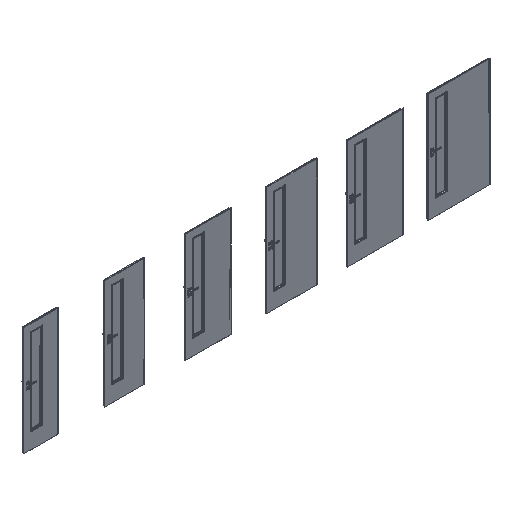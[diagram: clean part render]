
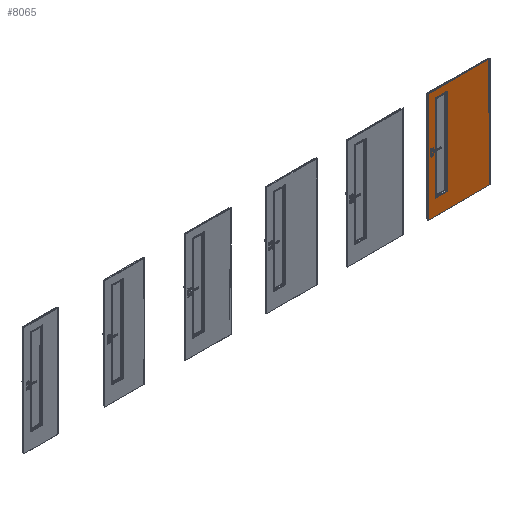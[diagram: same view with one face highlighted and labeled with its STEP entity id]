
A CAD part, isometric view. The second image highlights one B-rep face of the part: STEP entity #8065.
In plain terms, the highlighted planar face has unit normal (0, -1, 0).
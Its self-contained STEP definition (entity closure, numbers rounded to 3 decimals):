
#6673=CIRCLE('',#73642,7.);
#6674=CIRCLE('',#73643,7.);
#6675=CIRCLE('',#73644,7.);
#6676=CIRCLE('',#73645,7.);
#7023=FACE_BOUND('',#18516,.T.);
#7024=FACE_BOUND('',#18517,.T.);
#8065=ADVANCED_FACE('',(#7023,#7024),#11505,.F.);
#11505=PLANE('',#73646);
#18516=EDGE_LOOP('',(#26097,#26098,#26099,#26100,#26101,#26102,#26103,#26104));
#18517=EDGE_LOOP('',(#26105,#26106,#26107,#26108));
#26097=ORIENTED_EDGE('',*,*,#50567,.T.);
#26098=ORIENTED_EDGE('',*,*,#50568,.T.);
#26099=ORIENTED_EDGE('',*,*,#50569,.T.);
#26100=ORIENTED_EDGE('',*,*,#50570,.T.);
#26101=ORIENTED_EDGE('',*,*,#50571,.T.);
#26102=ORIENTED_EDGE('',*,*,#50572,.T.);
#26103=ORIENTED_EDGE('',*,*,#50573,.T.);
#26104=ORIENTED_EDGE('',*,*,#50574,.T.);
#26105=ORIENTED_EDGE('',*,*,#50575,.T.);
#26106=ORIENTED_EDGE('',*,*,#50576,.T.);
#26107=ORIENTED_EDGE('',*,*,#50577,.F.);
#26108=ORIENTED_EDGE('',*,*,#50565,.F.);
#43089=VERTEX_POINT('',#102606);
#43090=VERTEX_POINT('',#102608);
#43091=VERTEX_POINT('',#102612);
#43092=VERTEX_POINT('',#102613);
#43093=VERTEX_POINT('',#102615);
#43094=VERTEX_POINT('',#102617);
#43095=VERTEX_POINT('',#102619);
#43096=VERTEX_POINT('',#102621);
#43097=VERTEX_POINT('',#102623);
#43098=VERTEX_POINT('',#102625);
#43099=VERTEX_POINT('',#102628);
#43100=VERTEX_POINT('',#102630);
#50565=EDGE_CURVE('',#43089,#43090,#59629,.T.);
#50567=EDGE_CURVE('',#43091,#43092,#6673,.T.);
#50568=EDGE_CURVE('',#43092,#43093,#59631,.T.);
#50569=EDGE_CURVE('',#43093,#43094,#6674,.T.);
#50570=EDGE_CURVE('',#43094,#43095,#59632,.T.);
#50571=EDGE_CURVE('',#43095,#43096,#6675,.T.);
#50572=EDGE_CURVE('',#43096,#43097,#59633,.T.);
#50573=EDGE_CURVE('',#43097,#43098,#6676,.T.);
#50574=EDGE_CURVE('',#43098,#43091,#59634,.T.);
#50575=EDGE_CURVE('',#43089,#43099,#59635,.T.);
#50576=EDGE_CURVE('',#43099,#43100,#59636,.T.);
#50577=EDGE_CURVE('',#43090,#43100,#59637,.T.);
#59629=LINE('',#102607,#66487);
#59631=LINE('',#102614,#66489);
#59632=LINE('',#102618,#66490);
#59633=LINE('',#102622,#66491);
#59634=LINE('',#102626,#66492);
#59635=LINE('',#102627,#66493);
#59636=LINE('',#102629,#66494);
#59637=LINE('',#102631,#66495);
#66487=VECTOR('',#80208,1.);
#66489=VECTOR('',#80214,1.);
#66490=VECTOR('',#80217,1.);
#66491=VECTOR('',#80220,1.);
#66492=VECTOR('',#80223,1.);
#66493=VECTOR('',#80224,1.);
#66494=VECTOR('',#80225,1.);
#66495=VECTOR('',#80226,1.);
#73642=AXIS2_PLACEMENT_3D('',#102611,#80212,#80213);
#73643=AXIS2_PLACEMENT_3D('',#102616,#80215,#80216);
#73644=AXIS2_PLACEMENT_3D('',#102620,#80218,#80219);
#73645=AXIS2_PLACEMENT_3D('',#102624,#80221,#80222);
#73646=AXIS2_PLACEMENT_3D('',#102632,#80227,#80228);
#80208=DIRECTION('',(1.,0.,0.));
#80212=DIRECTION('',(0.,1.,0.));
#80213=DIRECTION('',(1.,0.,0.));
#80214=DIRECTION('',(1.,0.,0.));
#80215=DIRECTION('',(0.,1.,0.));
#80216=DIRECTION('',(-1.,0.,0.));
#80217=DIRECTION('',(0.,0.,-1.));
#80218=DIRECTION('',(0.,1.,0.));
#80219=DIRECTION('',(-1.,0.,0.));
#80220=DIRECTION('',(-1.,0.,0.));
#80221=DIRECTION('',(0.,1.,0.));
#80222=DIRECTION('',(1.,0.,0.));
#80223=DIRECTION('',(0.,0.,1.));
#80224=DIRECTION('',(0.,0.,-1.));
#80225=DIRECTION('',(1.,0.,0.));
#80226=DIRECTION('',(0.,0.,-1.));
#80227=DIRECTION('',(0.,1.,0.));
#80228=DIRECTION('',(-1.,0.,0.));
#102606=CARTESIAN_POINT('',(7178.,-39.3,2030.));
#102607=CARTESIAN_POINT('',(7178.,-39.3,2030.));
#102608=CARTESIAN_POINT('',(8322.,-39.3,2030.));
#102611=CARTESIAN_POINT('',(7317.95,-39.3,1890.05));
#102612=CARTESIAN_POINT('',(7313.,-39.3,1885.101));
#102613=CARTESIAN_POINT('',(7322.899,-39.3,1895.));
#102614=CARTESIAN_POINT('',(7322.899,-39.3,1895.));
#102615=CARTESIAN_POINT('',(7510.101,-39.3,1895.));
#102616=CARTESIAN_POINT('',(7515.05,-39.3,1890.05));
#102617=CARTESIAN_POINT('',(7520.,-39.3,1885.101));
#102618=CARTESIAN_POINT('',(7520.,-39.3,1885.101));
#102619=CARTESIAN_POINT('',(7520.,-39.3,310.899));
#102620=CARTESIAN_POINT('',(7515.05,-39.3,305.95));
#102621=CARTESIAN_POINT('',(7510.101,-39.3,301.));
#102622=CARTESIAN_POINT('',(7510.101,-39.3,301.));
#102623=CARTESIAN_POINT('',(7322.899,-39.3,301.));
#102624=CARTESIAN_POINT('',(7317.95,-39.3,305.95));
#102625=CARTESIAN_POINT('',(7313.,-39.3,310.899));
#102626=CARTESIAN_POINT('',(7313.,-39.3,310.899));
#102627=CARTESIAN_POINT('',(7178.,-39.3,2030.));
#102628=CARTESIAN_POINT('',(7178.,-39.3,2.));
#102629=CARTESIAN_POINT('',(7178.,-39.3,2.));
#102630=CARTESIAN_POINT('',(8322.,-39.3,2.));
#102631=CARTESIAN_POINT('',(8322.,-39.3,2030.));
#102632=CARTESIAN_POINT('',(7178.,-39.3,2030.));
